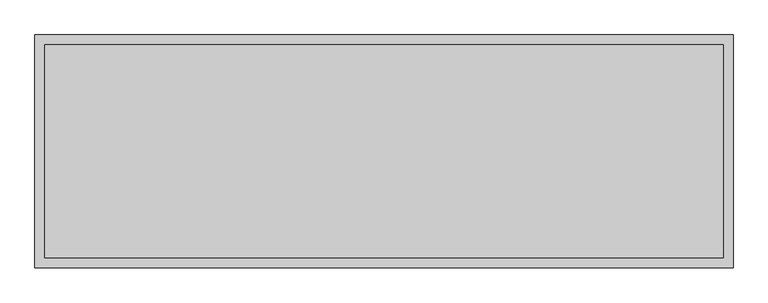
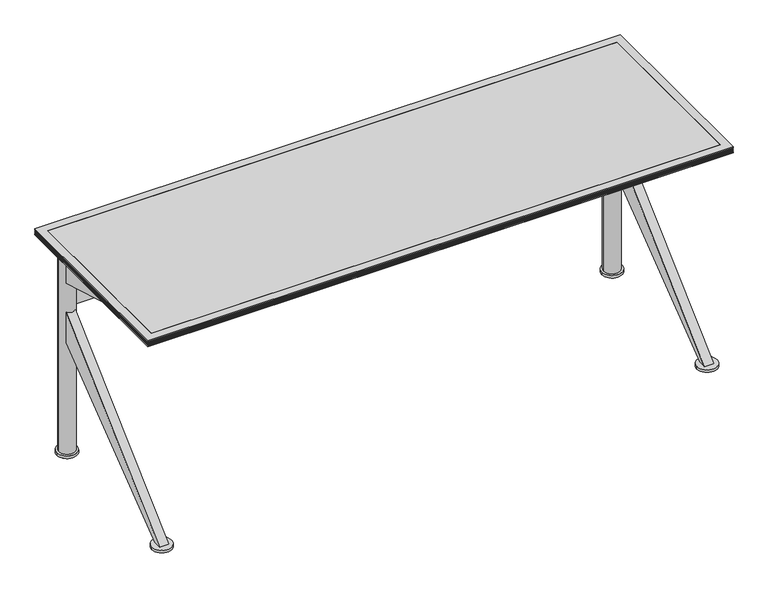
"""IFC4 building model written with IfcOpenShell, lengths in millimetres: furniture geometry, Coalesse_AM_Table_Conference_Ballet_Rectangular_KBase : Folding - 72L x 24W."""

from ifc_helpers import new_model, si_unit, point, frame, frame_2d, origin, origin_with_axes, place, context, project, spatial, polyline, circle_curve, trimmed, segment, composite_curve, outline, extrude, faceted_brep, source, transform, mapped, element, save
from ifc_brep_helpers import plane_surface, cylinder_surface, advanced_brep


def furniture_b1c274ee(model_context):
    return source(origin(), model_context, "Body", "SolidModel", [
        extrude(outline(composite_curve([segment(trimmed(circle_curve(frame_2d((-851.8092495, -273.05)), 25.4), [point((-877.2092495, -273.05))], [point((-826.4092495, -273.05))], False, "CARTESIAN"), True, "CONTINUOUS"), segment(trimmed(circle_curve(frame_2d((-851.8092495, -273.05)), 25.4), [point((-826.4092495, -273.05))], [point((-877.2092495, -273.05))], False, "CARTESIAN"), True, "CONTINUOUS")], self_intersect=False)), origin_with_axes(), (0.0, 0.0, 1.0), 4.2936144),
        extrude(outline(composite_curve([segment(trimmed(circle_curve(frame_2d((851.0624629, -273.05)), 25.4), [point((825.6624629, -273.05))], [point((876.4624629, -273.05))], False, "CARTESIAN"), True, "CONTINUOUS"), segment(trimmed(circle_curve(frame_2d((851.0624629, -273.05)), 25.4), [point((876.4624629, -273.05))], [point((825.6624629, -273.05))], False, "CARTESIAN"), True, "CONTINUOUS")], self_intersect=False)), origin_with_axes(), (0.0, 0.0, 1.0), 4.2936144),
        extrude(outline(composite_curve([segment(trimmed(circle_curve(frame_2d((851.0154995, 240.615286)), 25.4), [point((876.4154995, 240.615286))], [point((825.6154995, 240.615286))], False, "CARTESIAN"), True, "CONTINUOUS"), segment(trimmed(circle_curve(frame_2d((851.0154995, 240.615286)), 25.4), [point((825.6154995, 240.615286))], [point((876.4154995, 240.615286))], False, "CARTESIAN"), True, "CONTINUOUS")], self_intersect=False)), origin_with_axes(), (0.0, 0.0, 1.0), 4.2936144),
        extrude(outline(composite_curve([segment(trimmed(circle_curve(frame_2d((-851.8562129, 240.615286)), 25.4), [point((-826.4562129, 240.615286))], [point((-877.2562129, 240.615286))], False, "CARTESIAN"), True, "CONTINUOUS"), segment(trimmed(circle_curve(frame_2d((-851.8562129, 240.615286)), 25.4), [point((-877.2562129, 240.615286))], [point((-826.4562129, 240.615286))], False, "CARTESIAN"), True, "CONTINUOUS")], self_intersect=False)), origin_with_axes(), (0.0, 0.0, 1.0), 4.2936144),
        extrude(outline(composite_curve([segment(trimmed(circle_curve(frame_2d((851.0154995, 240.615286)), 31.75), [point((882.7654995, 240.615286))], [point((819.2654995, 240.615286))], False, "CARTESIAN"), True, "CONTINUOUS"), segment(trimmed(circle_curve(frame_2d((851.0154995, 240.615286)), 31.75), [point((819.2654995, 240.615286))], [point((882.7654995, 240.615286))], False, "CARTESIAN"), True, "CONTINUOUS")], self_intersect=False)), frame((0.0, 0.0, 4.2936144), z_axis=(0.0, 0.0, 1.0), x_axis=(1.0, 0.0, 0.0)), (0.0, 0.0, 1.0), 8.4063856),
        extrude(outline(composite_curve([segment(trimmed(circle_curve(frame_2d((-851.8562129, 240.615286)), 31.75), [point((-820.1062129, 240.615286))], [point((-883.6062129, 240.615286))], False, "CARTESIAN"), True, "CONTINUOUS"), segment(trimmed(circle_curve(frame_2d((-851.8562129, 240.615286)), 31.75), [point((-883.6062129, 240.615286))], [point((-820.1062129, 240.615286))], False, "CARTESIAN"), True, "CONTINUOUS")], self_intersect=False)), frame((0.0, 0.0, 4.2936144), z_axis=(0.0, 0.0, 1.0), x_axis=(1.0, 0.0, 0.0)), (0.0, 0.0, 1.0), 8.4063856),
        extrude(outline(polyline([(220.2656271, 577.7388634), (-193.674901, 698.5000242), (-161.924901, 698.5000242), (220.2656271, 641.3500242), (220.2656271, 577.7388634)])), frame((-865.2007845, 0.0, 0.0), z_axis=(1.0, 0.0, 0.0), x_axis=(0.0, 1.0, 0.0)), (0.0, 0.0, 1.0), 28.5877899),
        extrude(outline(polyline([(220.2656271, 381.0), (-261.9375951, 12.7), (-284.1624013, 12.7), (220.2656271, 482.7111245), (220.2656271, 381.0)])), frame((-865.2007845, 0.0, 0.0), z_axis=(1.0, 0.0, 0.0), x_axis=(0.0, 1.0, 0.0)), (0.0, 0.0, 1.0), 28.5877899),
        extrude(outline(polyline([(220.2656271, 577.7388634), (-193.674901, 698.5000242), (-161.924901, 698.5000242), (220.2656271, 641.3500242), (220.2656271, 577.7388634)])), frame((836.6121992, 0.0, 0.0), z_axis=(1.0, 0.0, 0.0), x_axis=(0.0, 1.0, 0.0)), (0.0, 0.0, 1.0), 28.575),
        extrude(outline(polyline([(220.2656271, 381.0), (-261.9375951, 12.7), (-284.1624013, 12.7), (220.2656271, 482.7111245), (220.2656271, 381.0)])), frame((836.6121992, 0.0, 0.0), z_axis=(1.0, 0.0, 0.0), x_axis=(0.0, 1.0, 0.0)), (0.0, 0.0, 1.0), 28.575),
        advanced_brep(
        [(828.9033169, 228.6000021, 568.3250121), (-828.9033169, 228.6000021, 568.3250121), (-828.9033169, 228.6000021, 492.1250121), (828.9033169, 228.6000021, 492.1250121), (-825.5003634, 241.3, 492.1250121), (-828.9032635, 253.9999052, 492.1250121), (828.9032635, 253.9999052, 492.1250121), (825.5003634, 241.3, 492.1250121), (-828.9032635, 253.9999052, 568.3250121), (828.9032635, 253.9999052, 568.3250121), (825.5003634, 241.3, 568.3250121), (-825.5003634, 241.3, 568.3250121), (-876.3003633, 241.3, 698.5000242), (-825.5003634, 241.3, 698.5000242), (825.5003634, 241.3, 698.5000242), (876.3003633, 241.3, 698.5000242), (-876.3003633, 241.3, 12.7), (-825.5003634, 241.3, 12.7), (825.5003634, 241.3, 12.7), (876.3003633, 241.3, 12.7)],
        [
            (0, 1),
            (1, 2),
            (2, 3),
            (3, 0),
            (2, 4, circle_curve(frame((-850.9003633, 241.3, 492.1250121), z_axis=(0.0, 0.0, 1.0), x_axis=(1.0, 0.0, 0.0)), 25.3999999)),
            (4, 5, circle_curve(frame((-850.9003633, 241.3, 492.1250121), z_axis=(0.0, 0.0, 1.0), x_axis=(1.0, 0.0, 0.0)), 25.3999999)),
            (5, 6),
            (6, 7, circle_curve(frame((850.9003633, 241.3, 492.1250121), z_axis=(0.0, 0.0, 1.0), x_axis=(1.0, 0.0, 0.0)), 25.3999999)),
            (7, 3, circle_curve(frame((850.9003633, 241.3, 492.1250121), z_axis=(0.0, 0.0, 1.0), x_axis=(1.0, 0.0, 0.0)), 25.3999999)),
            (5, 8),
            (8, 9),
            (9, 6),
            (0, 10, circle_curve(frame((850.9003633, 241.3, 568.3250121), z_axis=(0.0, 0.0, -1.0), x_axis=(1.0, 0.0, 0.0)), 25.3999999)),
            (10, 9, circle_curve(frame((850.9003633, 241.3, 568.3250121), z_axis=(0.0, 0.0, -1.0), x_axis=(1.0, 0.0, 0.0)), 25.3999999)),
            (8, 11, circle_curve(frame((-850.9003633, 241.3, 568.3250121), z_axis=(0.0, 0.0, -1.0), x_axis=(1.0, 0.0, 0.0)), 25.3999999)),
            (11, 1, circle_curve(frame((-850.9003633, 241.3, 568.3250121), z_axis=(0.0, 0.0, -1.0), x_axis=(1.0, 0.0, 0.0)), 25.3999999)),
            (12, 13, circle_curve(frame((-850.9003633, 241.3, 698.5000242), z_axis=(0.0, 0.0, 1.0), x_axis=(1.0, 0.0, 0.0)), 25.3999999)),
            (13, 12, circle_curve(frame((-850.9003633, 241.3, 698.5000242), z_axis=(0.0, 0.0, 1.0), x_axis=(1.0, 0.0, 0.0)), 25.3999999)),
            (14, 15, circle_curve(frame((850.9003633, 241.3, 698.5000242), z_axis=(0.0, 0.0, 1.0), x_axis=(1.0, 0.0, 0.0)), 25.3999999)),
            (15, 14, circle_curve(frame((850.9003633, 241.3, 698.5000242), z_axis=(0.0, 0.0, 1.0), x_axis=(1.0, 0.0, 0.0)), 25.3999999)),
            (16, 17, circle_curve(frame((-850.9003633, 241.3, 12.7), z_axis=(0.0, 0.0, -1.0), x_axis=(1.0, 0.0, 0.0)), 25.3999999)),
            (17, 16, circle_curve(frame((-850.9003633, 241.3, 12.7), z_axis=(0.0, 0.0, -1.0), x_axis=(1.0, 0.0, 0.0)), 25.3999999)),
            (18, 19, circle_curve(frame((850.9003633, 241.3, 12.7), z_axis=(0.0, 0.0, -1.0), x_axis=(1.0, 0.0, 0.0)), 25.3999999)),
            (19, 18, circle_curve(frame((850.9003633, 241.3, 12.7), z_axis=(0.0, 0.0, -1.0), x_axis=(1.0, 0.0, 0.0)), 25.3999999)),
            (12, 16),
            (17, 4),
            (11, 13),
            (14, 10),
            (7, 18),
            (19, 15),
        ],
        [
            plane_surface(frame((836.6121992, 228.6000021, 568.3250121), z_axis=(0.0, -1.0, 0.0), x_axis=(-1.0, 0.0, 0.0))),
            plane_surface(frame((836.6121992, 228.6000021, 492.1250121), z_axis=(0.0, 0.0, -1.0), x_axis=(-1.0, 0.0, 0.0))),
            plane_surface(frame((836.6121992, 253.9999052, 492.1250121), z_axis=(0.0, 1.0, 0.0), x_axis=(-1.0, 0.0, 0.0))),
            plane_surface(frame((836.6121992, 253.9999052, 568.3250121), z_axis=(0.0, 0.0, 1.0), x_axis=(-1.0, 0.0, 0.0))),
            plane_surface(frame((-825.5003634, 241.3, 698.5000242), z_axis=(0.0, 0.0, 1.0), x_axis=(0.0, 1.0, 0.0))),
            plane_surface(frame((-825.5003634, 241.3, 12.7), z_axis=(0.0, 0.0, -1.0), x_axis=(0.0, -1.0, 0.0))),
            cylinder_surface(frame((-850.9003633, 241.3, 12.7), z_axis=(0.0, 0.0, 1.0), x_axis=(1.0, 0.0, 0.0)), 25.3999999),
            cylinder_surface(frame((850.9003633, 241.3, 0.0), z_axis=(0.0, 0.0, 1.0), x_axis=(1.0, 0.0, 0.0)), 25.3999999),
        ],
        [
            (0, [[1, 2, 3, 4]]),
            (1, [[-3, 5, 6, 7, 8, 9]]),
            (2, [[-7, 10, 11, 12]]),
            (3, [[-1, 13, 14, -11, 15, 16]]),
            (4, [[17, 18]]),
            (4, [[19, 20]]),
            (5, [[21, 22]]),
            (5, [[23, 24]]),
            (6, [[-17, 25, -22, 26, -5, -2, -16, 27]]),
            (6, [[-18, -27, -15, -10, -6, -26, -21, -25]]),
            (7, [[-19, 28, -13, -4, -9, 29, -24, 30]]),
            (7, [[-20, -30, -23, -29, -8, -12, -14, -28]]),
        ],
    ),
        extrude(outline(composite_curve([segment(trimmed(circle_curve(frame_2d((-851.8092495, -273.05)), 31.75), [point((-883.5592495, -273.05))], [point((-820.0592495, -273.05))], False, "CARTESIAN"), True, "CONTINUOUS"), segment(trimmed(circle_curve(frame_2d((-851.8092495, -273.05)), 31.75), [point((-820.0592495, -273.05))], [point((-883.5592495, -273.05))], False, "CARTESIAN"), True, "CONTINUOUS")], self_intersect=False)), frame((0.0, 0.0, 4.2936144), z_axis=(0.0, 0.0, 1.0), x_axis=(1.0, 0.0, 0.0)), (0.0, 0.0, 1.0), 8.4063856),
        extrude(outline(composite_curve([segment(trimmed(circle_curve(frame_2d((851.0624629, -273.05)), 31.75), [point((819.3124629, -273.05))], [point((882.8124629, -273.05))], False, "CARTESIAN"), True, "CONTINUOUS"), segment(trimmed(circle_curve(frame_2d((851.0624629, -273.05)), 31.75), [point((882.8124629, -273.05))], [point((819.3124629, -273.05))], False, "CARTESIAN"), True, "CONTINUOUS")], self_intersect=False)), frame((0.0, 0.0, 4.2936144), z_axis=(0.0, 0.0, 1.0), x_axis=(1.0, 0.0, 0.0)), (0.0, 0.0, 1.0), 8.4063856),
        faceted_brep([(-914.4003633, 304.8, 704.85), (-889.0003876, 279.4000242, 698.5000242), (-889.0003876, -279.3999516, 698.5000242), (-914.4003633, -304.7999273, 704.85), (-914.4003633, 304.8, 708.0250242), (-914.4003633, -304.7999273, 708.0250242), (-911.2253755, 301.6250121, 709.6125), (-911.2253755, -301.6249394, 709.6125), (-914.4003633, 304.8, 711.1999758), (-914.4003633, -304.7999273, 711.1999758), (-911.2253755, 301.6250121, 712.7875242), (-911.2253755, -301.6249394, 712.7875242), (-914.4003633, 304.8, 714.375), (-914.4003633, -304.7999273, 714.375), (-911.2253755, 301.6250121, 715.9624758), (-911.2253755, -301.6249394, 715.9624758), (-914.4003633, 304.8, 717.5500242), (-914.4003633, -304.7999273, 717.5500242), (-911.2253755, 301.6250121, 719.1375), (-911.2253755, -301.6249394, 719.1375), (-914.4003633, 304.8, 720.7249758), (-914.4003633, -304.7999273, 720.7249758), (-914.4003633, 304.8, 723.9), (-914.4003633, -304.7999273, 723.9), (-889.0003876, 279.4000242, 723.9), (-889.0003876, -279.3999516, 723.9), (888.9998062, -279.3999516, 698.5000242), (914.399782, -304.7999273, 704.85), (914.399782, -304.7999273, 708.0250242), (911.2247941, -301.6249394, 709.6125), (914.399782, -304.7999273, 711.1999758), (911.2247941, -301.6249394, 712.7875242), (914.399782, -304.7999273, 714.375), (911.2247941, -301.6249394, 715.9624758), (914.399782, -304.7999273, 717.5500242), (911.2247941, -301.6249394, 719.1375), (914.399782, -304.7999273, 720.7249758), (914.399782, -304.7999273, 723.9), (888.9998062, -279.3999516, 723.9), (888.9998062, 279.4000242, 698.5000242), (914.399782, 304.8, 704.85), (914.399782, 304.8, 708.0250242), (911.2247941, 301.6250121, 709.6125), (914.399782, 304.8, 711.1999758), (911.2247941, 301.6250121, 712.7875242), (914.399782, 304.8, 714.375), (911.2247941, 301.6250121, 715.9624758), (914.399782, 304.8, 717.5500242), (911.2247941, 301.6250121, 719.1375), (914.399782, 304.8, 720.7249758), (914.399782, 304.8, 723.9), (888.9998062, 279.4000242, 723.9)], [[[0, 1, 2, 3]], [[4, 0, 3, 5]], [[6, 4, 5, 7]], [[8, 6, 7, 9]], [[10, 8, 9, 11]], [[12, 10, 11, 13]], [[14, 12, 13, 15]], [[16, 14, 15, 17]], [[18, 16, 17, 19]], [[20, 18, 19, 21]], [[22, 20, 21, 23]], [[1, 24, 25, 2]], [[3, 2, 26, 27]], [[5, 3, 27, 28]], [[7, 5, 28, 29]], [[9, 7, 29, 30]], [[11, 9, 30, 31]], [[13, 11, 31, 32]], [[15, 13, 32, 33]], [[17, 15, 33, 34]], [[19, 17, 34, 35]], [[21, 19, 35, 36]], [[23, 21, 36, 37]], [[2, 25, 38, 26]], [[27, 26, 39, 40]], [[28, 27, 40, 41]], [[29, 28, 41, 42]], [[30, 29, 42, 43]], [[31, 30, 43, 44]], [[32, 31, 44, 45]], [[33, 32, 45, 46]], [[34, 33, 46, 47]], [[35, 34, 47, 48]], [[36, 35, 48, 49]], [[37, 36, 49, 50]], [[26, 38, 51, 39]], [[40, 39, 1, 0]], [[41, 40, 0, 4]], [[42, 41, 4, 6]], [[43, 42, 6, 8]], [[44, 43, 8, 10]], [[45, 44, 10, 12]], [[46, 45, 12, 14]], [[47, 46, 14, 16]], [[48, 47, 16, 18]], [[49, 48, 18, 20]], [[50, 49, 20, 22]], [[23, 37, 50, 22], [24, 51, 38, 25]], [[39, 51, 24, 1]]]),
        extrude(outline(polyline([(888.9998062, 279.4000242), (888.9998062, -279.3999516), (-889.0003876, -279.3999516), (-889.0003876, 279.4000242), (888.9998062, 279.4000242)])), frame((0.0, 0.0, 704.85), z_axis=(0.0, 0.0, 1.0), x_axis=(1.0, 0.0, 0.0)), (0.0, 0.0, 1.0), 19.05),
    ])


if __name__ == "__main__":
    model = new_model("IFC4")
    model_context = context("Model", 3, world=origin())
    ifc_project = project(units=[si_unit("LENGTHUNIT", "METRE", prefix="MILLI")], contexts=[model_context])
    site = spatial("IfcSite", under=ifc_project)
    building = spatial("IfcBuilding", under=site)
    placement = place(None, origin())
    furniture_shape = furniture_b1c274ee(model_context)
    element("IfcFurniture", 1, ObjectType="Coalesse_AM_Table_Conference_Ballet_Rectangular_KBase : Folding - 72L x 24W", at=placement, inside=building, context=model_context, shape_type="MappedRepresentation", body=[
        mapped(furniture_shape, transform((0.0, 0.0, 0.0), x_axis=(1.0, 0.0, 0.0), y_axis=(0.0, 1.0, 0.0), z_axis=(0.0, 0.0, 1.0))),
    ])
    save(model, "model.ifc")
